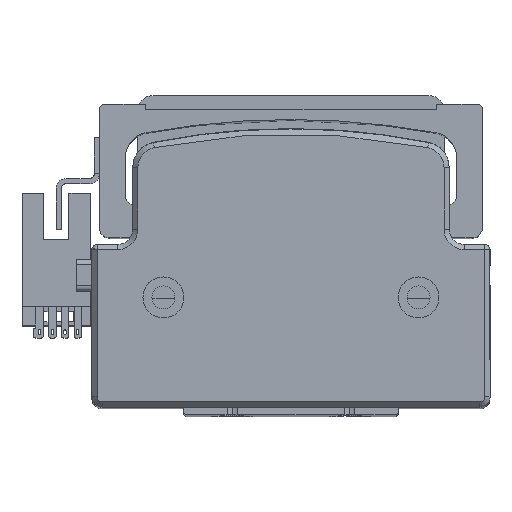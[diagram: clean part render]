
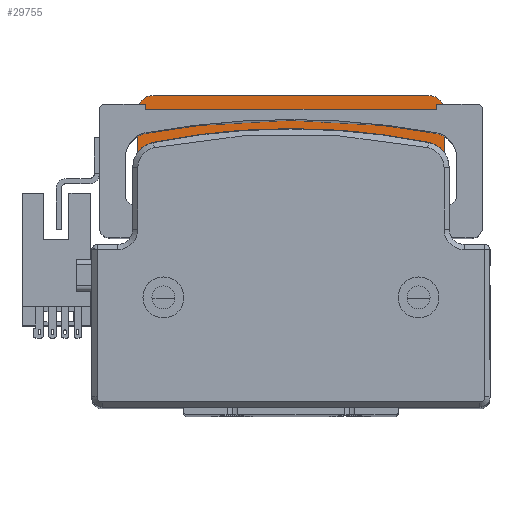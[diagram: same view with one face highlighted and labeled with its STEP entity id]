
A CAD part, top view. The second image highlights one B-rep face of the part: STEP entity #29755.
In plain terms, the highlighted planar face has unit normal (0, 0, 1) as drawn and (0, 0, -1) by its records, which use the part's own axes.
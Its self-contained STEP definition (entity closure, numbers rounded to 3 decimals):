
#269 = AXIS2_PLACEMENT_3D ( 'NONE', #20411, #44354, #23838 ) ;
#728 = ORIENTED_EDGE ( 'NONE', *, *, #43714, .F. ) ;
#1047 = EDGE_CURVE ( 'NONE', #3790, #10735, #6572, .T. ) ;
#1146 = CARTESIAN_POINT ( 'NONE',  ( 19., 30., 44. ) ) ;
#1509 = AXIS2_PLACEMENT_3D ( 'NONE', #36334, #15884, #39771 ) ;
#1908 = CARTESIAN_POINT ( 'NONE',  ( 27., 27., 44. ) ) ;
#2077 = CIRCLE ( 'NONE', #1509, 3. ) ;
#2551 = DIRECTION ( 'NONE',  ( 0., 1., 0. ) ) ;
#2557 = ORIENTED_EDGE ( 'NONE', *, *, #4225, .F. ) ;
#2834 = EDGE_CURVE ( 'NONE', #21491, #43396, #24405, .T. ) ;
#2956 = CARTESIAN_POINT ( 'NONE',  ( -39.764, 17., 44. ) ) ;
#2964 = EDGE_CURVE ( 'NONE', #42307, #28440, #39351, .T. ) ;
#3297 = DIRECTION ( 'NONE',  ( 1., 0., 0. ) ) ;
#3457 = CARTESIAN_POINT ( 'NONE',  ( 23.099, 24.749, 44. ) ) ;
#3790 = VERTEX_POINT ( 'NONE', #32688 ) ;
#3830 = PLANE ( 'NONE',  #43163 ) ;
#4225 = EDGE_CURVE ( 'NONE', #27543, #7364, #18361, .T. ) ;
#5062 = CARTESIAN_POINT ( 'NONE',  ( 24.749, 24.749, 44. ) ) ;
#5402 = VERTEX_POINT ( 'NONE', #12695 ) ;
#5433 = DIRECTION ( 'NONE',  ( 1., 0., 0. ) ) ;
#5714 = DIRECTION ( 'NONE',  ( 0., 0., -1. ) ) ;
#6234 = CARTESIAN_POINT ( 'NONE',  ( 19., 0., 44. ) ) ;
#6572 = LINE ( 'NONE', #31311, #14602 ) ;
#6778 = VECTOR ( 'NONE', #36792, 1000. ) ;
#7147 = ORIENTED_EDGE ( 'NONE', *, *, #36132, .T. ) ;
#7364 = VERTEX_POINT ( 'NONE', #3457 ) ;
#8527 = DIRECTION ( 'NONE',  ( 1., 0., 0. ) ) ;
#9137 = DIRECTION ( 'NONE',  ( 0., 0., 1. ) ) ;
#9451 = CARTESIAN_POINT ( 'NONE',  ( 26.399, 24.749, 44. ) ) ;
#9651 = CARTESIAN_POINT ( 'NONE',  ( -19., 30., 44. ) ) ;
#9751 = VERTEX_POINT ( 'NONE', #27170 ) ;
#10708 = DIRECTION ( 'NONE',  ( -1., 0., 0. ) ) ;
#10735 = VERTEX_POINT ( 'NONE', #24198 ) ;
#10921 = EDGE_LOOP ( 'NONE', ( #2557, #23954 ) ) ;
#11307 = CARTESIAN_POINT ( 'NONE',  ( 27., 17., 44. ) ) ;
#11813 = CIRCLE ( 'NONE', #22433, 1.65 ) ;
#12695 = CARTESIAN_POINT ( 'NONE',  ( -27., 30., 44. ) ) ;
#12736 = CIRCLE ( 'NONE', #17811, 3. ) ;
#13180 = CARTESIAN_POINT ( 'NONE',  ( -19., 0., 44. ) ) ;
#13360 = CARTESIAN_POINT ( 'NONE',  ( 19., 30., 44. ) ) ;
#13529 = EDGE_CURVE ( 'NONE', #3790, #5402, #2077, .T. ) ;
#13982 = EDGE_CURVE ( 'NONE', #24349, #9751, #27709, .T. ) ;
#14355 = CARTESIAN_POINT ( 'NONE',  ( 0., 0., 44. ) ) ;
#14602 = VECTOR ( 'NONE', #34773, 1000. ) ;
#14615 = AXIS2_PLACEMENT_3D ( 'NONE', #5062, #28934, #8527 ) ;
#14818 = EDGE_LOOP ( 'NONE', ( #34492, #35260, #30385, #16780, #41873, #24106, #25475, #30224, #34257, #42373, #19052, #7147 ) ) ;
#15106 = DIRECTION ( 'NONE',  ( 1., 0., 0. ) ) ;
#15884 = DIRECTION ( 'NONE',  ( 0., 0., -1. ) ) ;
#16119 = CIRCLE ( 'NONE', #14615, 1.65 ) ;
#16513 = LINE ( 'NONE', #13360, #22364 ) ;
#16780 = ORIENTED_EDGE ( 'NONE', *, *, #1047, .F. ) ;
#17783 = DIRECTION ( 'NONE',  ( -1., 0., 0. ) ) ;
#17811 = AXIS2_PLACEMENT_3D ( 'NONE', #1908, #25898, #5433 ) ;
#18361 = CIRCLE ( 'NONE', #35437, 1.65 ) ;
#18365 = CARTESIAN_POINT ( 'NONE',  ( -26.399, 24.749, 44. ) ) ;
#18962 = DIRECTION ( 'NONE',  ( 0., 0., -1. ) ) ;
#19052 = ORIENTED_EDGE ( 'NONE', *, *, #2964, .T. ) ;
#19839 = CARTESIAN_POINT ( 'NONE',  ( 27., 30., 44. ) ) ;
#20411 = CARTESIAN_POINT ( 'NONE',  ( -27., 14., 44. ) ) ;
#20859 = FACE_BOUND ( 'NONE', #27789, .T. ) ;
#20883 = CARTESIAN_POINT ( 'NONE',  ( 19., -30., 44. ) ) ;
#21381 = AXIS2_PLACEMENT_3D ( 'NONE', #29530, #9137, #33007 ) ;
#21452 = EDGE_CURVE ( 'NONE', #21491, #29398, #25553, .T. ) ;
#21464 = AXIS2_PLACEMENT_3D ( 'NONE', #39400, #18962, #42902 ) ;
#21491 = VERTEX_POINT ( 'NONE', #36992 ) ;
#21713 = CIRCLE ( 'NONE', #269, 3. ) ;
#22342 = VECTOR ( 'NONE', #33239, 1000. ) ;
#22364 = VECTOR ( 'NONE', #27065, 1000. ) ;
#22433 = AXIS2_PLACEMENT_3D ( 'NONE', #44338, #23822, #3297 ) ;
#23024 = VERTEX_POINT ( 'NONE', #31882 ) ;
#23048 = VERTEX_POINT ( 'NONE', #18365 ) ;
#23329 = VECTOR ( 'NONE', #25002, 1000. ) ;
#23443 = LINE ( 'NONE', #9651, #32500 ) ;
#23822 = DIRECTION ( 'NONE',  ( 0., 0., -1. ) ) ;
#23838 = DIRECTION ( 'NONE',  ( -1., 0., 0. ) ) ;
#23954 = ORIENTED_EDGE ( 'NONE', *, *, #24575, .F. ) ;
#24106 = ORIENTED_EDGE ( 'NONE', *, *, #26070, .T. ) ;
#24198 = CARTESIAN_POINT ( 'NONE',  ( -30., 14., 44. ) ) ;
#24349 = VERTEX_POINT ( 'NONE', #27321 ) ;
#24405 = CIRCLE ( 'NONE', #21381, 3. ) ;
#24575 = EDGE_CURVE ( 'NONE', #7364, #27543, #16119, .T. ) ;
#25002 = DIRECTION ( 'NONE',  ( 0., -1., 0. ) ) ;
#25475 = ORIENTED_EDGE ( 'NONE', *, *, #25958, .T. ) ;
#25553 = LINE ( 'NONE', #36689, #22342 ) ;
#25898 = DIRECTION ( 'NONE',  ( 0., 0., -1. ) ) ;
#25958 = EDGE_CURVE ( 'NONE', #36402, #29398, #12736, .T. ) ;
#26070 = EDGE_CURVE ( 'NONE', #5402, #36402, #16513, .T. ) ;
#26174 = CARTESIAN_POINT ( 'NONE',  ( 24.749, 24.749, 44. ) ) ;
#27065 = DIRECTION ( 'NONE',  ( 1., 0., 0. ) ) ;
#27109 = EDGE_CURVE ( 'NONE', #24349, #10735, #21713, .T. ) ;
#27170 = CARTESIAN_POINT ( 'NONE',  ( -19., 17., 44. ) ) ;
#27321 = CARTESIAN_POINT ( 'NONE',  ( -27., 17., 44. ) ) ;
#27543 = VERTEX_POINT ( 'NONE', #9451 ) ;
#27709 = LINE ( 'NONE', #42309, #43821 ) ;
#27789 = EDGE_LOOP ( 'NONE', ( #33552, #728 ) ) ;
#28440 = VERTEX_POINT ( 'NONE', #6234 ) ;
#28934 = DIRECTION ( 'NONE',  ( 0., 0., -1. ) ) ;
#29398 = VERTEX_POINT ( 'NONE', #39005 ) ;
#29530 = CARTESIAN_POINT ( 'NONE',  ( 27., 14., 44. ) ) ;
#29565 = DIRECTION ( 'NONE',  ( 1., 0., 0. ) ) ;
#29592 = AXIS2_PLACEMENT_3D ( 'NONE', #14355, #38231, #17783 ) ;
#29755 = ADVANCED_FACE ( 'NONE', ( #29907, #20859, #37978 ), #3830, .T. ) ;
#29907 = FACE_OUTER_BOUND ( 'NONE', #14818, .T. ) ;
#30224 = ORIENTED_EDGE ( 'NONE', *, *, #21452, .F. ) ;
#30385 = ORIENTED_EDGE ( 'NONE', *, *, #27109, .T. ) ;
#30796 = CIRCLE ( 'NONE', #21464, 1.65 ) ;
#31154 = DIRECTION ( 'NONE',  ( 0., 0., -1. ) ) ;
#31311 = CARTESIAN_POINT ( 'NONE',  ( -30., -30., 44. ) ) ;
#31795 = EDGE_CURVE ( 'NONE', #23024, #23048, #30796, .T. ) ;
#31882 = CARTESIAN_POINT ( 'NONE',  ( -23.099, 24.749, 44. ) ) ;
#32500 = VECTOR ( 'NONE', #2551, 1000. ) ;
#32688 = CARTESIAN_POINT ( 'NONE',  ( -30., 27., 44. ) ) ;
#33007 = DIRECTION ( 'NONE',  ( -1., 0., 0. ) ) ;
#33239 = DIRECTION ( 'NONE',  ( 0., 1., 0. ) ) ;
#33552 = ORIENTED_EDGE ( 'NONE', *, *, #31795, .F. ) ;
#34257 = ORIENTED_EDGE ( 'NONE', *, *, #2834, .T. ) ;
#34492 = ORIENTED_EDGE ( 'NONE', *, *, #37688, .T. ) ;
#34773 = DIRECTION ( 'NONE',  ( 0., -1., 0. ) ) ;
#35260 = ORIENTED_EDGE ( 'NONE', *, *, #13982, .F. ) ;
#35437 = AXIS2_PLACEMENT_3D ( 'NONE', #26174, #5714, #29565 ) ;
#35731 = VERTEX_POINT ( 'NONE', #13180 ) ;
#36132 = EDGE_CURVE ( 'NONE', #28440, #35731, #39591, .T. ) ;
#36334 = CARTESIAN_POINT ( 'NONE',  ( -27., 27., 44. ) ) ;
#36402 = VERTEX_POINT ( 'NONE', #19839 ) ;
#36689 = CARTESIAN_POINT ( 'NONE',  ( 30., -30., 44. ) ) ;
#36792 = DIRECTION ( 'NONE',  ( 1., 0., 0. ) ) ;
#36992 = CARTESIAN_POINT ( 'NONE',  ( 30., 14., 44. ) ) ;
#37688 = EDGE_CURVE ( 'NONE', #35731, #9751, #23443, .T. ) ;
#37978 = FACE_BOUND ( 'NONE', #10921, .T. ) ;
#38176 = EDGE_CURVE ( 'NONE', #42307, #43396, #43169, .T. ) ;
#38231 = DIRECTION ( 'NONE',  ( 0., 0., 1. ) ) ;
#39005 = CARTESIAN_POINT ( 'NONE',  ( 30., 27., 44. ) ) ;
#39351 = LINE ( 'NONE', #1146, #23329 ) ;
#39400 = CARTESIAN_POINT ( 'NONE',  ( -24.749, 24.749, 44. ) ) ;
#39591 = CIRCLE ( 'NONE', #29592, 19. ) ;
#39771 = DIRECTION ( 'NONE',  ( 1., 0., 0. ) ) ;
#41873 = ORIENTED_EDGE ( 'NONE', *, *, #13529, .T. ) ;
#42231 = CARTESIAN_POINT ( 'NONE',  ( 19., 17., 44. ) ) ;
#42307 = VERTEX_POINT ( 'NONE', #42231 ) ;
#42309 = CARTESIAN_POINT ( 'NONE',  ( -39.764, 17., 44. ) ) ;
#42373 = ORIENTED_EDGE ( 'NONE', *, *, #38176, .F. ) ;
#42902 = DIRECTION ( 'NONE',  ( 1., 0., 0. ) ) ;
#43163 = AXIS2_PLACEMENT_3D ( 'NONE', #20883, #31154, #10708 ) ;
#43169 = LINE ( 'NONE', #2956, #6778 ) ;
#43396 = VERTEX_POINT ( 'NONE', #11307 ) ;
#43714 = EDGE_CURVE ( 'NONE', #23048, #23024, #11813, .T. ) ;
#43821 = VECTOR ( 'NONE', #15106, 1000. ) ;
#44338 = CARTESIAN_POINT ( 'NONE',  ( -24.749, 24.749, 44. ) ) ;
#44354 = DIRECTION ( 'NONE',  ( 0., 0., 1. ) ) ;
